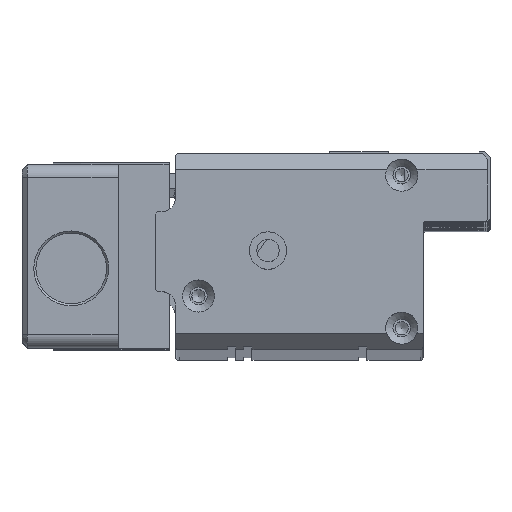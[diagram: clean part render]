
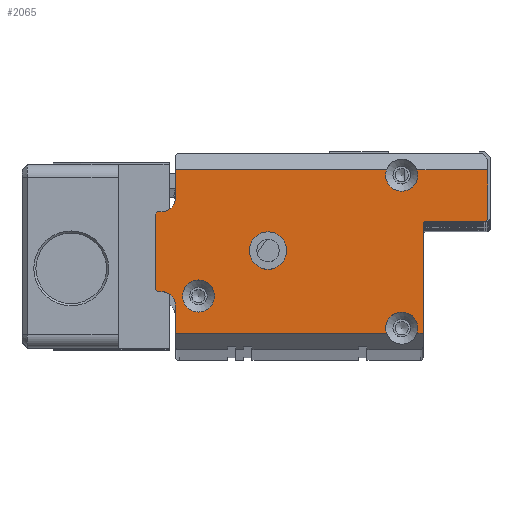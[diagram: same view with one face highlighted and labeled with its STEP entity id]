
A CAD part, top view. The second image highlights one B-rep face of the part: STEP entity #2065.
In plain terms, the highlighted planar face has unit normal (0, 0, 1).
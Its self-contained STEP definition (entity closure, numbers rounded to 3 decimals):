
#2065=ADVANCED_FACE('',(#2865,#2866,#2867),#2587,.T.);
#2587=PLANE('',#17142);
#2865=FACE_BOUND('',#3798,.T.);
#2866=FACE_BOUND('',#3799,.T.);
#2867=FACE_BOUND('',#3800,.T.);
#3798=EDGE_LOOP('',(#8707));
#3799=EDGE_LOOP('',(#8708,#8709,#8710,#8711,#8712,#8713,#8714,#8715,#8716,
#8717,#8718,#8719,#8720,#8721,#8722,#8723,#8724,#8725,#8726,#8727));
#3800=EDGE_LOOP('',(#8728));
#4404=CIRCLE('',#17132,3.);
#4405=CIRCLE('',#17133,3.);
#4406=CIRCLE('',#17134,0.5);
#4407=CIRCLE('',#17135,0.5);
#4408=CIRCLE('',#17136,3.);
#4409=CIRCLE('',#17137,2.5);
#4410=CIRCLE('',#17138,0.5);
#4411=CIRCLE('',#17139,0.5);
#4412=CIRCLE('',#17140,2.5);
#4413=CIRCLE('',#17141,3.5);
#8707=ORIENTED_EDGE('',*,*,#12626,.T.);
#8708=ORIENTED_EDGE('',*,*,#12627,.T.);
#8709=ORIENTED_EDGE('',*,*,#12628,.T.);
#8710=ORIENTED_EDGE('',*,*,#12629,.T.);
#8711=ORIENTED_EDGE('',*,*,#12630,.T.);
#8712=ORIENTED_EDGE('',*,*,#12631,.T.);
#8713=ORIENTED_EDGE('',*,*,#12632,.T.);
#8714=ORIENTED_EDGE('',*,*,#12633,.T.);
#8715=ORIENTED_EDGE('',*,*,#12634,.T.);
#8716=ORIENTED_EDGE('',*,*,#12635,.T.);
#8717=ORIENTED_EDGE('',*,*,#12636,.T.);
#8718=ORIENTED_EDGE('',*,*,#12637,.T.);
#8719=ORIENTED_EDGE('',*,*,#12638,.T.);
#8720=ORIENTED_EDGE('',*,*,#12639,.T.);
#8721=ORIENTED_EDGE('',*,*,#12640,.T.);
#8722=ORIENTED_EDGE('',*,*,#12641,.T.);
#8723=ORIENTED_EDGE('',*,*,#12642,.T.);
#8724=ORIENTED_EDGE('',*,*,#12643,.T.);
#8725=ORIENTED_EDGE('',*,*,#12644,.T.);
#8726=ORIENTED_EDGE('',*,*,#12645,.T.);
#8727=ORIENTED_EDGE('',*,*,#12646,.T.);
#8728=ORIENTED_EDGE('',*,*,#12647,.T.);
#10404=VERTEX_POINT('',#26950);
#10405=VERTEX_POINT('',#26952);
#10406=VERTEX_POINT('',#26953);
#10407=VERTEX_POINT('',#26955);
#10408=VERTEX_POINT('',#26957);
#10409=VERTEX_POINT('',#26959);
#10410=VERTEX_POINT('',#26961);
#10411=VERTEX_POINT('',#26963);
#10412=VERTEX_POINT('',#26965);
#10413=VERTEX_POINT('',#26967);
#10414=VERTEX_POINT('',#26969);
#10415=VERTEX_POINT('',#26971);
#10416=VERTEX_POINT('',#26973);
#10417=VERTEX_POINT('',#26975);
#10418=VERTEX_POINT('',#26977);
#10419=VERTEX_POINT('',#26979);
#10420=VERTEX_POINT('',#26981);
#10421=VERTEX_POINT('',#26983);
#10422=VERTEX_POINT('',#26985);
#10423=VERTEX_POINT('',#26987);
#10424=VERTEX_POINT('',#26989);
#10425=VERTEX_POINT('',#26992);
#12626=EDGE_CURVE('',#10404,#10404,#4404,.T.);
#12627=EDGE_CURVE('',#10405,#10406,#4405,.T.);
#12628=EDGE_CURVE('',#10406,#10407,#14152,.T.);
#12629=EDGE_CURVE('',#10407,#10408,#14153,.T.);
#12630=EDGE_CURVE('',#10408,#10409,#4406,.T.);
#12631=EDGE_CURVE('',#10409,#10410,#14154,.T.);
#12632=EDGE_CURVE('',#10410,#10411,#4407,.T.);
#12633=EDGE_CURVE('',#10411,#10412,#14155,.T.);
#12634=EDGE_CURVE('',#10412,#10413,#14156,.T.);
#12635=EDGE_CURVE('',#10413,#10414,#4408,.T.);
#12636=EDGE_CURVE('',#10414,#10415,#14157,.T.);
#12637=EDGE_CURVE('',#10415,#10416,#14158,.T.);
#12638=EDGE_CURVE('',#10416,#10417,#4409,.T.);
#12639=EDGE_CURVE('',#10417,#10418,#14159,.T.);
#12640=EDGE_CURVE('',#10418,#10419,#4410,.T.);
#12641=EDGE_CURVE('',#10419,#10420,#14160,.T.);
#12642=EDGE_CURVE('',#10420,#10421,#4411,.T.);
#12643=EDGE_CURVE('',#10421,#10422,#14161,.T.);
#12644=EDGE_CURVE('',#10422,#10423,#4412,.T.);
#12645=EDGE_CURVE('',#10423,#10424,#14162,.T.);
#12646=EDGE_CURVE('',#10424,#10405,#14163,.T.);
#12647=EDGE_CURVE('',#10425,#10425,#4413,.T.);
#14152=LINE('',#26954,#15644);
#14153=LINE('',#26956,#15645);
#14154=LINE('',#26960,#15646);
#14155=LINE('',#26964,#15647);
#14156=LINE('',#26966,#15648);
#14157=LINE('',#26970,#15649);
#14158=LINE('',#26972,#15650);
#14159=LINE('',#26976,#15651);
#14160=LINE('',#26980,#15652);
#14161=LINE('',#26984,#15653);
#14162=LINE('',#26988,#15654);
#14163=LINE('',#26990,#15655);
#15644=VECTOR('',#21431,1.);
#15645=VECTOR('',#21432,1.);
#15646=VECTOR('',#21435,1.);
#15647=VECTOR('',#21438,1.);
#15648=VECTOR('',#21439,1.);
#15649=VECTOR('',#21442,1.);
#15650=VECTOR('',#21443,1.);
#15651=VECTOR('',#21446,1.);
#15652=VECTOR('',#21449,1.);
#15653=VECTOR('',#21452,1.);
#15654=VECTOR('',#21455,1.);
#15655=VECTOR('',#21456,1.);
#17132=AXIS2_PLACEMENT_3D('',#26949,#21427,#21428);
#17133=AXIS2_PLACEMENT_3D('',#26951,#21429,#21430);
#17134=AXIS2_PLACEMENT_3D('',#26958,#21433,#21434);
#17135=AXIS2_PLACEMENT_3D('',#26962,#21436,#21437);
#17136=AXIS2_PLACEMENT_3D('',#26968,#21440,#21441);
#17137=AXIS2_PLACEMENT_3D('',#26974,#21444,#21445);
#17138=AXIS2_PLACEMENT_3D('',#26978,#21447,#21448);
#17139=AXIS2_PLACEMENT_3D('',#26982,#21450,#21451);
#17140=AXIS2_PLACEMENT_3D('',#26986,#21453,#21454);
#17141=AXIS2_PLACEMENT_3D('',#26991,#21457,#21458);
#17142=AXIS2_PLACEMENT_3D('',#26993,#21459,#21460);
#21427=DIRECTION('',(0.,0.,-1.));
#21428=DIRECTION('',(-1.,0.,0.));
#21429=DIRECTION('',(0.,0.,-1.));
#21430=DIRECTION('',(-1.,0.,0.));
#21431=DIRECTION('',(1.,0.,0.));
#21432=DIRECTION('',(0.,1.,0.));
#21433=DIRECTION('',(0.,0.,-1.));
#21434=DIRECTION('',(1.,0.,0.));
#21435=DIRECTION('',(1.,0.,0.));
#21436=DIRECTION('',(0.,0.,1.));
#21437=DIRECTION('',(1.,0.,0.));
#21438=DIRECTION('',(0.,1.,0.));
#21439=DIRECTION('',(-1.,0.,0.));
#21440=DIRECTION('',(0.,0.,-1.));
#21441=DIRECTION('',(-1.,0.,0.));
#21442=DIRECTION('',(-1.,0.,0.));
#21443=DIRECTION('',(0.,-1.,0.));
#21444=DIRECTION('',(0.,0.,-1.));
#21445=DIRECTION('',(1.,0.,0.));
#21446=DIRECTION('',(-1.,0.,0.));
#21447=DIRECTION('',(0.,0.,1.));
#21448=DIRECTION('',(1.,0.,0.));
#21449=DIRECTION('',(0.,-1.,0.));
#21450=DIRECTION('',(0.,0.,1.));
#21451=DIRECTION('',(1.,0.,0.));
#21452=DIRECTION('',(1.,0.,0.));
#21453=DIRECTION('',(0.,0.,-1.));
#21454=DIRECTION('',(1.,0.,0.));
#21455=DIRECTION('',(0.,-1.,0.));
#21456=DIRECTION('',(1.,0.,0.));
#21457=DIRECTION('',(0.,0.,-1.));
#21458=DIRECTION('',(-1.,0.,0.));
#21459=DIRECTION('',(0.,0.,1.));
#21460=DIRECTION('',(-1.,0.,0.));
#26949=CARTESIAN_POINT('',(8.,-26.6,8.));
#26950=CARTESIAN_POINT('',(5.,-26.6,8.));
#26951=CARTESIAN_POINT('',(46.,-32.6,8.));
#26952=CARTESIAN_POINT('',(43.172,-33.6,8.));
#26953=CARTESIAN_POINT('',(48.828,-33.6,8.));
#26954=CARTESIAN_POINT('',(50.,-33.6,8.));
#26955=CARTESIAN_POINT('',(50.,-33.6,8.));
#26956=CARTESIAN_POINT('',(50.,-36.6,8.));
#26957=CARTESIAN_POINT('',(50.,-13.1,8.));
#26958=CARTESIAN_POINT('',(50.5,-13.1,8.));
#26959=CARTESIAN_POINT('',(50.5,-12.6,8.));
#26960=CARTESIAN_POINT('',(50.,-12.6,8.));
#26961=CARTESIAN_POINT('',(61.6,-12.6,8.));
#26962=CARTESIAN_POINT('',(61.6,-12.1,8.));
#26963=CARTESIAN_POINT('',(62.1,-12.1,8.));
#26964=CARTESIAN_POINT('',(62.1,-12.6,8.));
#26965=CARTESIAN_POINT('',(62.1,-3.,8.));
#26966=CARTESIAN_POINT('',(3.7,-3.,8.));
#26967=CARTESIAN_POINT('',(48.828,-3.,8.));
#26968=CARTESIAN_POINT('',(46.,-4.,8.));
#26969=CARTESIAN_POINT('',(43.172,-3.,8.));
#26970=CARTESIAN_POINT('',(3.7,-3.,8.));
#26971=CARTESIAN_POINT('',(3.7,-3.,8.));
#26972=CARTESIAN_POINT('',(3.7,0.,8.));
#26973=CARTESIAN_POINT('',(3.7,-8.3,8.));
#26974=CARTESIAN_POINT('',(1.2,-8.3,8.));
#26975=CARTESIAN_POINT('',(1.2,-10.8,8.));
#26976=CARTESIAN_POINT('',(3.7,-10.8,8.));
#26977=CARTESIAN_POINT('',(0.5,-10.8,8.));
#26978=CARTESIAN_POINT('',(0.5,-11.3,8.));
#26979=CARTESIAN_POINT('',(0.,-11.3,8.));
#26980=CARTESIAN_POINT('',(0.,-10.8,8.));
#26981=CARTESIAN_POINT('',(0.,-25.3,8.));
#26982=CARTESIAN_POINT('',(0.5,-25.3,8.));
#26983=CARTESIAN_POINT('',(0.5,-25.8,8.));
#26984=CARTESIAN_POINT('',(0.,-25.8,8.));
#26985=CARTESIAN_POINT('',(1.2,-25.8,8.));
#26986=CARTESIAN_POINT('',(1.2,-28.3,8.));
#26987=CARTESIAN_POINT('',(3.7,-28.3,8.));
#26988=CARTESIAN_POINT('',(3.7,-25.8,8.));
#26989=CARTESIAN_POINT('',(3.7,-33.6,8.));
#26990=CARTESIAN_POINT('',(50.,-33.6,8.));
#26991=CARTESIAN_POINT('',(21.,-18.1,8.));
#26992=CARTESIAN_POINT('',(17.5,-18.1,8.));
#26993=CARTESIAN_POINT('',(0.,0.,8.));
